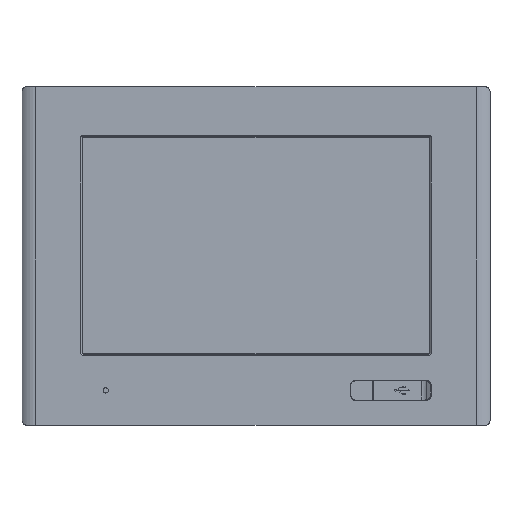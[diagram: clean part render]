
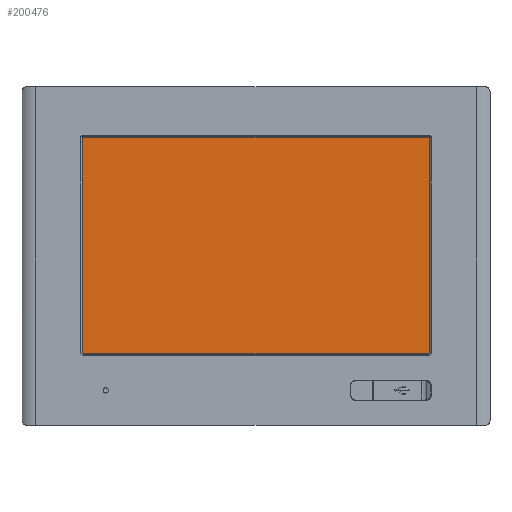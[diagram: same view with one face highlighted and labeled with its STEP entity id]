
A CAD part, top view. The second image highlights one B-rep face of the part: STEP entity #200476.
In plain terms, the highlighted planar face has unit normal (0, 0, 1).
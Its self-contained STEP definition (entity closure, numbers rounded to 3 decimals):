
#200348=DIRECTION('',(0.,1.,0.));
#200349=VECTOR('',#200348,135.6);
#200350=CARTESIAN_POINT('',(-108.5,-67.8,1.3));
#200351=LINE('',#200350,#200349);
#200352=DIRECTION('',(1.,0.,0.));
#200353=VECTOR('',#200352,217.);
#200354=CARTESIAN_POINT('',(-108.5,67.8,1.3));
#200355=LINE('',#200354,#200353);
#200356=DIRECTION('',(0.,-1.,0.));
#200357=VECTOR('',#200356,135.6);
#200358=CARTESIAN_POINT('',(108.5,67.8,1.3));
#200359=LINE('',#200358,#200357);
#200360=DIRECTION('',(-1.,0.,0.));
#200361=VECTOR('',#200360,217.);
#200362=CARTESIAN_POINT('',(108.5,-67.8,1.3));
#200363=LINE('',#200362,#200361);
#200388=CARTESIAN_POINT('',(-108.5,67.8,1.3));
#200389=CARTESIAN_POINT('',(-108.5,-67.8,1.3));
#200390=VERTEX_POINT('',#200388);
#200391=VERTEX_POINT('',#200389);
#200392=CARTESIAN_POINT('',(108.5,-67.8,1.3));
#200393=VERTEX_POINT('',#200392);
#200394=CARTESIAN_POINT('',(108.5,67.8,1.3));
#200395=VERTEX_POINT('',#200394);
#200461=CARTESIAN_POINT('',(0.,0.,1.3));
#200462=DIRECTION('',(0.,0.,1.));
#200463=DIRECTION('',(1.,0.,0.));
#200464=AXIS2_PLACEMENT_3D('',#200461,#200462,#200463);
#200465=PLANE('',#200464);
#200467=ORIENTED_EDGE('',*,*,#200466,.T.);
#200469=ORIENTED_EDGE('',*,*,#200468,.T.);
#200471=ORIENTED_EDGE('',*,*,#200470,.T.);
#200473=ORIENTED_EDGE('',*,*,#200472,.T.);
#200474=EDGE_LOOP('',(#200467,#200469,#200471,#200473));
#200475=FACE_OUTER_BOUND('',#200474,.F.);
#200466=EDGE_CURVE('',#200391,#200390,#200351,.T.);
#200468=EDGE_CURVE('',#200390,#200395,#200355,.T.);
#200470=EDGE_CURVE('',#200395,#200393,#200359,.T.);
#200472=EDGE_CURVE('',#200393,#200391,#200363,.T.);
#200476=ADVANCED_FACE('',(#200475),#200465,.T.);
